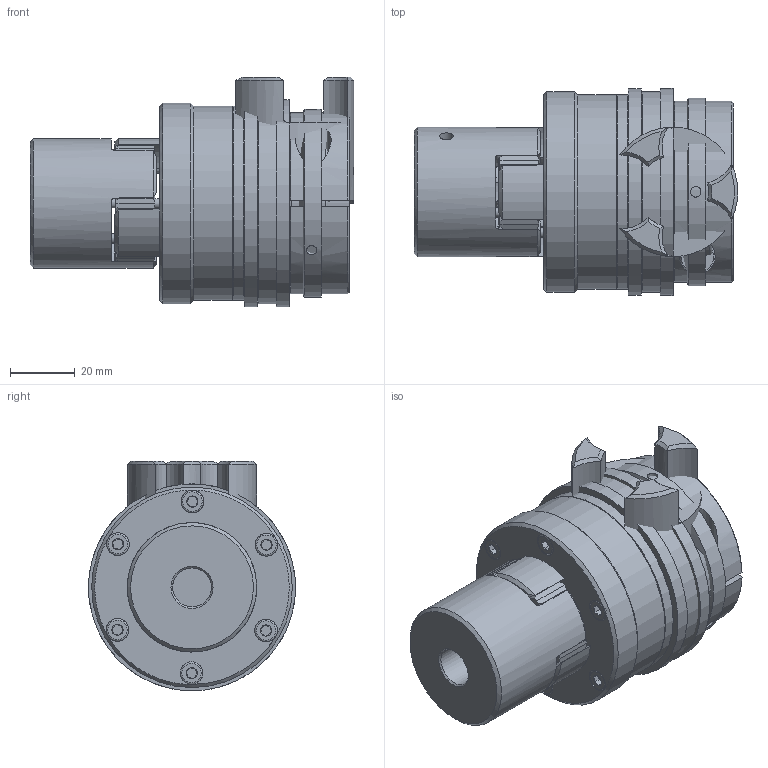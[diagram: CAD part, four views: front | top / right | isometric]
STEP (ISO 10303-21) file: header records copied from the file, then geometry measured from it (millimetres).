
FILE_DESCRIPTION( ( 'Unknown' ), '1' );
FILE_NAME( 'K:/Daten/homepage/cad - homepage/KBK-E-PK/KBK EPK-19.stp', 'Unknown', ( 'Unknown' ), ( 'Unknown' ), 'XStep 1.0', 'Unknown', ' ' );
FILE_SCHEMA( ( 'automotive_design' ) );
Length unit declared in the file: millimetre
Products named in the file (17): Assem1; Assem2; Assem3; Zylinderschraube DIN 912_0; ball_bearing_-_6005_0_01; ball_bearing_-_6005_0_02; ball_bearing_-_6005_0_03; Stellring 30; Druckring 30; a_25; Flansch L30; Zahnkranz_19; KBE 1 - 19_Nabe; ISO EN DIN 4762_M4x16; L-K-30 Grundkörper; Klemmnabe 30; Elastomerflansch 19
Bounding box: 100 x 64 x 71 mm (x, y, z)
Volume: 376818.7 mm3; surface area: 163397.6 mm2
Topology: 37 solids, 37 shells, 799 faces, 1764 edges, 1113 vertices
Faces by surface type: plane 286, cylinder 266, cone 188, torus 59
Full cylindrical faces by diameter (mm): 2 x4, 3 x12, 3.242 x18, 3.5 x7, 4 x14, 4.2 x14, 4.917 x2, 6 x3, 6.4 x2, 7 x19, 8 x2, 10 x5, 11 x2, 12 x2, 18 x4, 23.9 x2, 25 x7, 25.5 x2, 30 x2, 32 x6, 34 x2, 38 x4, 40 x4, 40.3 x6, 47 x7, 52 x2, 58 x2, 60 x4, 62 x2, 64 x2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
Entity records: 9908 total; most frequent: CARTESIAN_POINT 2347, DIRECTION 1504, ORIENTED_EDGE 1204, AXIS2_PLACEMENT_3D 678, EDGE_CURVE 602, EDGE_LOOP 495, VERTEX_POINT 437, FACE_OUTER_BOUND 403
